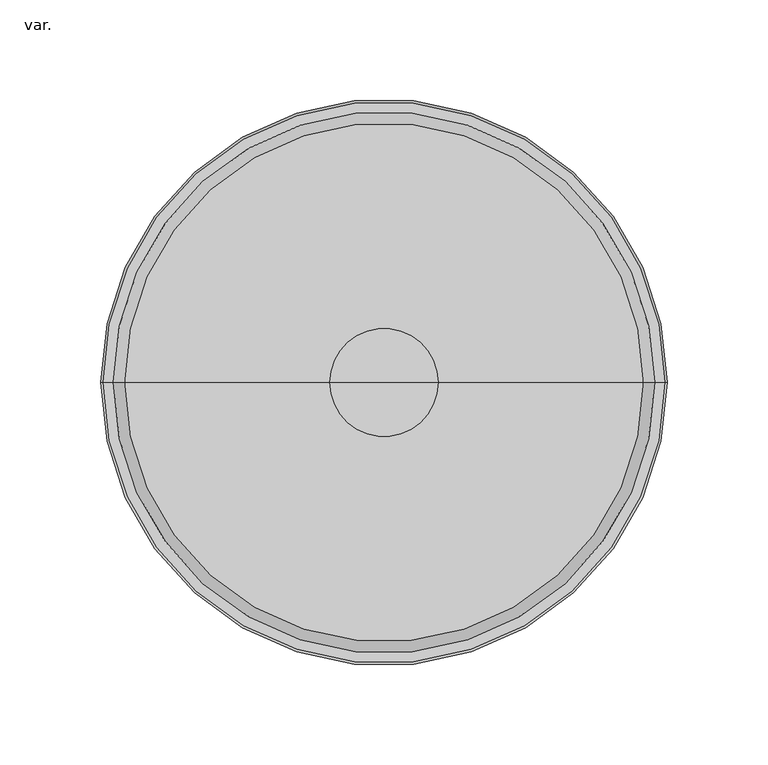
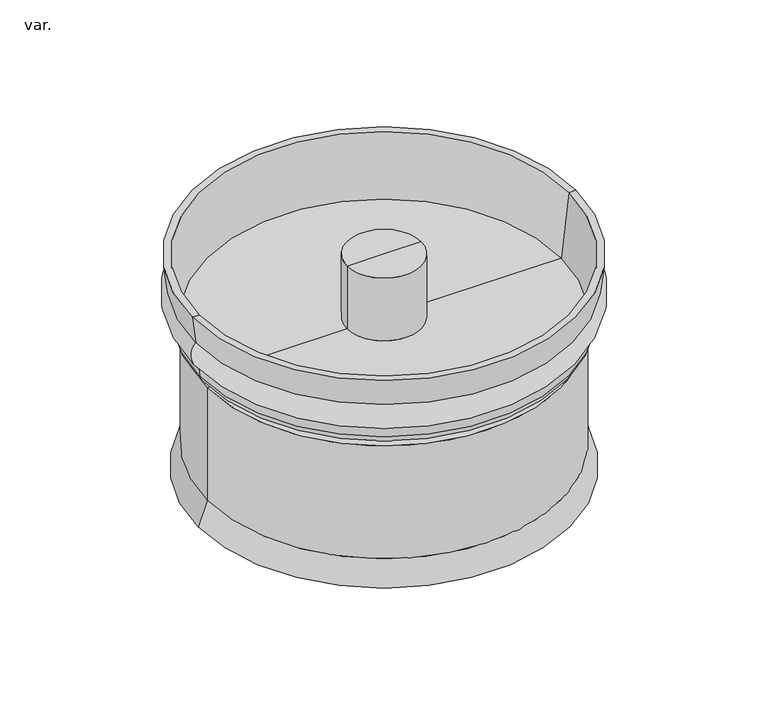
"""IFC4 building model written with IfcOpenShell, lengths in millimetres: pipe fitting geometry, AmancoWavin_ConexõesdeTubos_SaneamentoEsgotoNãoUsarTampãoparaTIL : var.."""

from ifc_helpers import new_model, si_unit, point, frame, origin, place, context, project, spatial, polyline, circle_curve, ellipse_curve, trimmed, source, transform, mapped, element, save
from ifc_brep_helpers import plane_surface, cylinder_surface, revolved_surface, advanced_brep


def var_5ea33b43(model_context):
    return source(origin(), model_context, "Body", "AdvancedBrep", [
        advanced_brep(
        [(134.8, 0.0, 0.0), (-134.8, 0.0, 0.0), (-128.25, 0.0, 17.9959771), (128.25, 0.0, 17.9959771), (132.1395556, 0.0, 0.0), (-132.1395556, 0.0, 0.0), (125.75, 0.0, 17.5551596), (-125.75, 0.0, 17.5551596), (125.75, 0.0, 102.0), (-125.75, 0.0, 102.0), (119.75, 0.0, 102.0), (-119.75, 0.0, 102.0), (119.75, 0.0, 111.6626384), (-119.75, 0.0, 111.6626384), (134.1, 0.0, 162.3), (-134.1, 0.0, 162.3), (-128.5717917, 0.0, 114.1626384), (128.5717917, 0.0, 114.1626384), (136.7597578, 0.0, 142.2), (-136.7597578, 0.0, 142.2), (-139.1, 0.0, 162.3), (139.1, 0.0, 162.3), (134.4484412, 0.0, 122.2333324), (-134.4484412, 0.0, 122.2333324), (122.25, 0.0, 104.5), (-122.25, 0.0, 104.5), (-122.25, 0.0, 109.1626384), (122.25, 0.0, 109.1626384), (128.25, 0.0, 104.5), (-128.25, 0.0, 104.5), (133.5989044, 0.0, 115.3081402), (-133.5989044, 0.0, 115.3081402), (127.1433558, 0.0, 109.1626384), (-127.1433558, 0.0, 109.1626384), (0.0, 0.0, 111.6626384), (26.8, 0.0, 162.3), (-26.8, 0.0, 162.3), (0.0, 0.0, 162.3), (26.8, 0.0, 114.1626384), (-26.8, 0.0, 114.1626384)],
        [
            (0, 1, circle_curve(frame((0.0, 0.0, 0.0), z_axis=(0.0, 0.0, 1.0), x_axis=(-1.0, 0.0, 0.0)), 134.8)),
            (1, 2),
            (2, 3, circle_curve(frame((0.0, 0.0, 17.9959771), z_axis=(0.0, 0.0, -1.0), x_axis=(-1.0, 0.0, 0.0)), 128.25)),
            (3, 0),
            (1, 0, circle_curve(frame((0.0, 0.0, 0.0), z_axis=(0.0, 0.0, 1.0), x_axis=(-1.0, 0.0, 0.0)), 134.8)),
            (3, 2, circle_curve(frame((0.0, 0.0, 17.9959771), z_axis=(0.0, 0.0, -1.0), x_axis=(-1.0, 0.0, 0.0)), 128.25)),
            (4, 5, circle_curve(frame((0.0, 0.0, 0.0), z_axis=(0.0, 0.0, 1.0), x_axis=(-1.0, 0.0, 0.0)), 132.1395556)),
            (5, 1),
            (0, 4),
            (5, 4, circle_curve(frame((0.0, 0.0, 0.0), z_axis=(0.0, 0.0, 1.0), x_axis=(-1.0, 0.0, 0.0)), 132.1395556)),
            (6, 7, circle_curve(frame((0.0, 0.0, 17.5551596), z_axis=(0.0, 0.0, 1.0), x_axis=(-1.0, 0.0, 0.0)), 125.75)),
            (7, 5),
            (4, 6),
            (7, 6, circle_curve(frame((0.0, 0.0, 17.5551596), z_axis=(0.0, 0.0, 1.0), x_axis=(-1.0, 0.0, 0.0)), 125.75)),
            (8, 9, circle_curve(frame((0.0, 0.0, 102.0), z_axis=(0.0, 0.0, 1.0), x_axis=(-1.0, 0.0, 0.0)), 125.75)),
            (9, 7),
            (6, 8),
            (9, 8, circle_curve(frame((0.0, 0.0, 102.0), z_axis=(0.0, 0.0, 1.0), x_axis=(-1.0, 0.0, 0.0)), 125.75)),
            (10, 11, circle_curve(frame((0.0, 0.0, 102.0), z_axis=(0.0, 0.0, 1.0), x_axis=(-1.0, 0.0, 0.0)), 119.75)),
            (11, 9),
            (8, 10),
            (11, 10, circle_curve(frame((0.0, 0.0, 102.0), z_axis=(0.0, 0.0, 1.0), x_axis=(-1.0, 0.0, 0.0)), 119.75)),
            (12, 13, circle_curve(frame((0.0, 0.0, 111.6626384), z_axis=(0.0, 0.0, 1.0), x_axis=(-1.0, 0.0, 0.0)), 119.75)),
            (13, 11),
            (10, 12),
            (13, 12, circle_curve(frame((0.0, 0.0, 111.6626384), z_axis=(0.0, 0.0, 1.0), x_axis=(-1.0, 0.0, 0.0)), 119.75)),
            (14, 15, circle_curve(frame((0.0, 0.0, 162.3), z_axis=(0.0, 0.0, 1.0), x_axis=(-1.0, 0.0, 0.0)), 134.1)),
            (15, 16),
            (16, 17, circle_curve(frame((0.0, 0.0, 114.1626384), z_axis=(0.0, 0.0, -1.0), x_axis=(-1.0, 0.0, 0.0)), 128.5717917)),
            (17, 14),
            (15, 14, circle_curve(frame((0.0, 0.0, 162.3), z_axis=(0.0, 0.0, 1.0), x_axis=(-1.0, 0.0, 0.0)), 134.1)),
            (17, 16, circle_curve(frame((0.0, 0.0, 114.1626384), z_axis=(0.0, 0.0, -1.0), x_axis=(-1.0, 0.0, 0.0)), 128.5717917)),
            (18, 19, circle_curve(frame((0.0, 0.0, 142.2), z_axis=(0.0, 0.0, 1.0), x_axis=(-1.0, 0.0, 0.0)), 136.7597578)),
            (19, 20),
            (20, 21, circle_curve(frame((0.0, 0.0, 162.3), z_axis=(0.0, 0.0, -1.0), x_axis=(-1.0, 0.0, 0.0)), 139.1)),
            (21, 18),
            (19, 18, circle_curve(frame((0.0, 0.0, 142.2), z_axis=(0.0, 0.0, 1.0), x_axis=(-1.0, 0.0, 0.0)), 136.7597578)),
            (21, 20, circle_curve(frame((0.0, 0.0, 162.3), z_axis=(0.0, 0.0, -1.0), x_axis=(-1.0, 0.0, 0.0)), 139.1)),
            (22, 23, circle_curve(frame((0.0, 0.0, 122.2333324), z_axis=(0.0, 0.0, 1.0), x_axis=(-1.0, 0.0, 0.0)), 134.4484412)),
            (23, 19, circle_curve(frame((-127.1261915, 0.0, 133.1980583), z_axis=(0.0, 1.0, 0.0), x_axis=(1.0, 0.0, 0.0)), 13.1848608)),
            (18, 22, circle_curve(frame((127.1261915, 0.0, 133.1980583), z_axis=(0.0, 1.0, 0.0), x_axis=(-1.0, 0.0, 0.0)), 13.1848608)),
            (23, 22, circle_curve(frame((0.0, 0.0, 122.2333324), z_axis=(0.0, 0.0, 1.0), x_axis=(-1.0, 0.0, 0.0)), 134.4484412)),
            (24, 25, circle_curve(frame((0.0, 0.0, 104.5), z_axis=(0.0, 0.0, 1.0), x_axis=(-1.0, 0.0, 0.0)), 122.25)),
            (25, 26),
            (26, 27, circle_curve(frame((0.0, 0.0, 109.1626384), z_axis=(0.0, 0.0, -1.0), x_axis=(-1.0, 0.0, 0.0)), 122.25)),
            (27, 24),
            (25, 24, circle_curve(frame((0.0, 0.0, 104.5), z_axis=(0.0, 0.0, 1.0), x_axis=(-1.0, 0.0, 0.0)), 122.25)),
            (27, 26, circle_curve(frame((0.0, 0.0, 109.1626384), z_axis=(0.0, 0.0, -1.0), x_axis=(-1.0, 0.0, 0.0)), 122.25)),
            (28, 29, circle_curve(frame((0.0, 0.0, 104.5), z_axis=(0.0, 0.0, 1.0), x_axis=(-1.0, 0.0, 0.0)), 128.25)),
            (29, 25),
            (24, 28),
            (29, 28, circle_curve(frame((0.0, 0.0, 104.5), z_axis=(0.0, 0.0, 1.0), x_axis=(-1.0, 0.0, 0.0)), 128.25)),
            (2, 29),
            (28, 3),
            (30, 31, circle_curve(frame((0.0, 0.0, 115.3081402), z_axis=(0.0, 0.0, 1.0), x_axis=(-1.0, 0.0, 0.0)), 133.5989044)),
            (31, 23),
            (22, 30),
            (31, 30, circle_curve(frame((0.0, 0.0, 115.3081402), z_axis=(0.0, 0.0, 1.0), x_axis=(-1.0, 0.0, 0.0)), 133.5989044)),
            (32, 33, circle_curve(frame((0.0, 0.0, 109.1626384), z_axis=(0.0, 0.0, 1.0), x_axis=(-1.0, 0.0, 0.0)), 127.1433558)),
            (33, 31, circle_curve(frame((-127.1433558, 0.0, 115.6260082), z_axis=(0.0, 1.0, 0.0), x_axis=(1.0, 0.0, 0.0)), 6.4633698)),
            (30, 32, circle_curve(frame((127.1433558, 0.0, 115.6260082), z_axis=(0.0, 1.0, 0.0), x_axis=(-1.0, 0.0, 0.0)), 6.4633698)),
            (33, 32, circle_curve(frame((0.0, 0.0, 109.1626384), z_axis=(0.0, 0.0, 1.0), x_axis=(-1.0, 0.0, 0.0)), 127.1433558)),
            (26, 33),
            (32, 27),
            (34, 13),
            (12, 34),
            (35, 36, circle_curve(frame((0.0, 0.0, 162.3), z_axis=(0.0, 0.0, 1.0), x_axis=(-1.0, 0.0, 0.0)), 26.8)),
            (36, 37),
            (37, 35),
            (36, 35, circle_curve(frame((0.0, 0.0, 162.3), z_axis=(0.0, 0.0, 1.0), x_axis=(-1.0, 0.0, 0.0)), 26.8)),
            (38, 39, circle_curve(frame((0.0, 0.0, 114.1626384), z_axis=(0.0, 0.0, 1.0), x_axis=(-1.0, 0.0, 0.0)), 26.8)),
            (39, 36),
            (35, 38),
            (39, 38, circle_curve(frame((0.0, 0.0, 114.1626384), z_axis=(0.0, 0.0, 1.0), x_axis=(-1.0, 0.0, 0.0)), 26.8)),
            (16, 39),
            (38, 17),
            (20, 15),
            (14, 21),
        ],
        [
            revolved_surface(polyline([(-128.25, 0.0, 17.9959771), (-134.8, 0.0, 0.0)]), (0.0, 0.0, 2219.0260722), (0.0, 0.0, -1.0)),
            plane_surface(frame((0.0, 0.0, 0.0), z_axis=(0.0, 0.0, -1.0), x_axis=(-1.0, 0.0, 0.0))),
            revolved_surface(polyline([(-132.1395556, 0.0, 0.0), (-125.75, 0.0, 17.5551596)]), (0.0, 0.0, 2219.0260722), (0.0, 0.0, -1.0)),
            revolved_surface(polyline([(-125.75, 0.0, 17.555159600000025), (-125.75, 0.0, 102.0)]), (0.0, 0.0, 2219.0260722), (0.0, 0.0, -1.0)),
            plane_surface(frame((0.0, 0.0, 102.0), z_axis=(0.0, 0.0, -1.0), x_axis=(-1.0, 0.0, 0.0))),
            revolved_surface(polyline([(-119.75, 0.0, 102.0), (-119.75, 0.0, 111.6626384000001)]), (0.0, 0.0, 2219.0260722), (0.0, 0.0, -1.0)),
            revolved_surface(polyline([(-128.5717917, 0.0, 114.1626384), (-134.1, 0.0, 162.3)]), (0.0, 0.0, 2219.0260722), (0.0, 0.0, -1.0)),
            revolved_surface(polyline([(-139.1, 0.0, 162.3), (-136.7597578, 0.0, 142.2)]), (0.0, 0.0, 2219.0260722), (0.0, 0.0, -1.0)),
            revolved_surface(trimmed(ellipse_curve(frame((-127.1261915, 0.0, 133.1980583), z_axis=(0.0, -1.0, 0.0), x_axis=(1.0, 0.0, 0.0)), 13.1848608, 13.1848608), [point((-136.7597578, 0.0, 142.2))], [point((-134.4484412, 0.0, 122.2333324))], True, "CARTESIAN"), (0.0, 0.0, 2219.0260722), (0.0, 0.0, -1.0)),
            cylinder_surface(frame((0.0, 0.0, 2219.0260722), z_axis=(0.0, 0.0, -1.0), x_axis=(-1.0, 0.0, 0.0)), 122.25),
            plane_surface(frame((0.0, 0.0, 104.5), z_axis=(0.0, 0.0, 1.0), x_axis=(-1.0, 0.0, 0.0))),
            cylinder_surface(frame((0.0, 0.0, 2219.0260722), z_axis=(0.0, 0.0, -1.0), x_axis=(-1.0, 0.0, 0.0)), 128.25),
            revolved_surface(polyline([(-134.4484412, 0.0, 122.2333324), (-133.5989044, 0.0, 115.3081402)]), (0.0, 0.0, 2219.0260722), (0.0, 0.0, -1.0)),
            revolved_surface(trimmed(ellipse_curve(frame((-127.1433558, 0.0, 115.6260082), z_axis=(0.0, -1.0, 0.0), x_axis=(1.0, 0.0, 0.0)), 6.4633698, 6.4633698), [point((-133.5989044, 0.0, 115.3081402))], [point((-127.1433558, 0.0, 109.1626384))], True, "CARTESIAN"), (0.0, 0.0, 2219.0260722), (0.0, 0.0, -1.0)),
            plane_surface(frame((0.0, 0.0, 109.1626384), z_axis=(0.0, 0.0, -1.0), x_axis=(-1.0, 0.0, 0.0))),
            plane_surface(frame((0.0, 0.0, 111.6626384), z_axis=(0.0, 0.0, -1.0), x_axis=(-1.0, 0.0, 0.0))),
            plane_surface(frame((0.0, 0.0, 162.3), z_axis=(0.0, 0.0, 1.0), x_axis=(-1.0, 0.0, 0.0))),
            cylinder_surface(frame((0.0, 0.0, 2219.0260722), z_axis=(0.0, 0.0, -1.0), x_axis=(-1.0, 0.0, 0.0)), 26.8),
            plane_surface(frame((0.0, 0.0, 114.1626384), z_axis=(0.0, 0.0, 1.0), x_axis=(-1.0, 0.0, 0.0))),
        ],
        [
            (0, [[1, 2, 3, 4]]),
            (0, [[5, -4, 6, -2]]),
            (1, [[7, 8, -1, 9]]),
            (1, [[10, -9, -5, -8]]),
            (2, [[11, 12, -7, 13]]),
            (2, [[14, -13, -10, -12]]),
            (3, [[15, 16, -11, 17]]),
            (3, [[18, -17, -14, -16]]),
            (4, [[19, 20, -15, 21]]),
            (4, [[22, -21, -18, -20]]),
            (5, [[23, 24, -19, 25]]),
            (5, [[26, -25, -22, -24]]),
            (6, [[27, 28, 29, 30]]),
            (6, [[31, -30, 32, -28]]),
            (7, [[33, 34, 35, 36]]),
            (7, [[37, -36, 38, -34]]),
            (8, [[39, 40, -33, 41]]),
            (8, [[42, -41, -37, -40]]),
            (9, [[43, 44, 45, 46]]),
            (9, [[47, -46, 48, -44]]),
            (10, [[49, 50, -43, 51]]),
            (10, [[52, -51, -47, -50]]),
            (11, [[-3, 53, -49, 54]]),
            (11, [[-6, -54, -52, -53]]),
            (12, [[55, 56, -39, 57]]),
            (12, [[58, -57, -42, -56]]),
            (13, [[59, 60, -55, 61]]),
            (13, [[62, -61, -58, -60]]),
            (14, [[-45, 63, -59, 64]]),
            (14, [[-48, -64, -62, -63]]),
            (15, [[65, -23, 66]]),
            (15, [[-66, -26, -65]]),
            (16, [[67, 68, 69]]),
            (16, [[70, -69, -68]]),
            (17, [[71, 72, -67, 73]]),
            (17, [[74, -73, -70, -72]]),
            (18, [[-29, 75, -71, 76]]),
            (18, [[-32, -76, -74, -75]]),
            (16, [[-35, 77, -27, 78]]),
            (16, [[-38, -78, -31, -77]]),
        ],
    ),
    ])


if __name__ == "__main__":
    model = new_model("IFC4")
    model_context = context("Model", 3, world=origin())
    ifc_project = project(units=[si_unit("LENGTHUNIT", "METRE", prefix="MILLI")], contexts=[model_context])
    site = spatial("IfcSite", under=ifc_project)
    building = spatial("IfcBuilding", under=site)
    placement = place(None, origin())
    var_shape = var_5ea33b43(model_context)
    element("IfcPipeFitting", 1, ObjectType="AmancoWavin_ConexõesdeTubos_SaneamentoEsgotoNãoUsarTampãoparaTIL : var.", at=placement, inside=building, context=model_context, shape_type="MappedRepresentation", body=[
        mapped(var_shape, transform((0.0, 0.0, 0.0), x_axis=(1.0, 0.0, 0.0), y_axis=(0.0, 1.0, 0.0), z_axis=(0.0, 0.0, 1.0))),
    ])
    save(model, "model.ifc")
